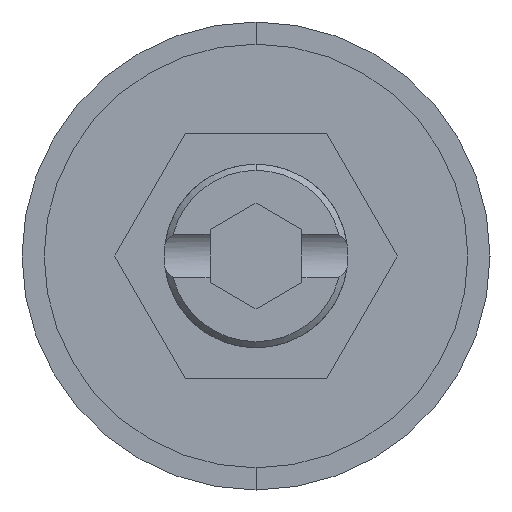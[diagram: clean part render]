
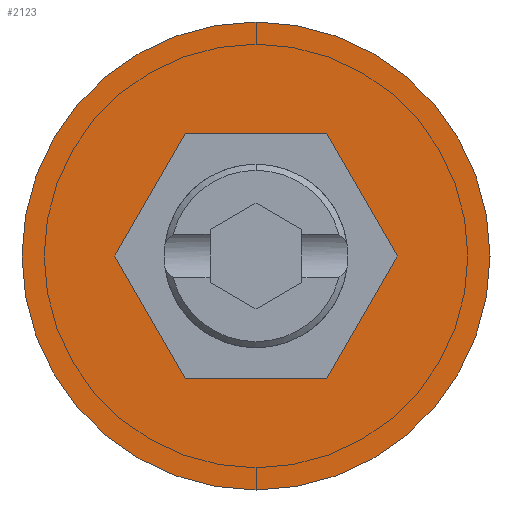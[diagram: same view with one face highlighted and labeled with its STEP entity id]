
A CAD part, front view. The second image highlights one B-rep face of the part: STEP entity #2123.
In plain terms, the highlighted planar face has unit normal (0, -1, 0).
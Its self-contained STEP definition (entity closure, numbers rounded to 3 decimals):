
#33 = ORIENTED_EDGE ( 'NONE', *, *, #2002, .T. ) ;
#62 = DIRECTION ( 'NONE',  ( 0., 0., -1. ) ) ;
#91 = VECTOR ( 'NONE', #1223, 1000. ) ;
#124 = EDGE_CURVE ( 'NONE', #137, #1408, #1117, .T. ) ;
#136 = CARTESIAN_POINT ( 'NONE',  ( 4.619, 0., 0. ) ) ;
#137 = VERTEX_POINT ( 'NONE', #3266 ) ;
#145 = DIRECTION ( 'NONE',  ( 0., -1., 0. ) ) ;
#203 = VERTEX_POINT ( 'NONE', #762 ) ;
#233 = EDGE_LOOP ( 'NONE', ( #1955, #33 ) ) ;
#241 = CARTESIAN_POINT ( 'NONE',  ( 0., 0., 0. ) ) ;
#264 = PLANE ( 'NONE',  #3974 ) ;
#391 = EDGE_CURVE ( 'NONE', #3546, #203, #3991, .T. ) ;
#451 = AXIS2_PLACEMENT_3D ( 'NONE', #3568, #1650, #3899 ) ;
#459 = ORIENTED_EDGE ( 'NONE', *, *, #3722, .F. ) ;
#473 = CIRCLE ( 'NONE', #2277, 7.65 ) ;
#477 = VERTEX_POINT ( 'NONE', #3572 ) ;
#559 = DIRECTION ( 'NONE',  ( -0.5, 0., 0.866 ) ) ;
#731 = EDGE_CURVE ( 'NONE', #3794, #3546, #2207, .T. ) ;
#762 = CARTESIAN_POINT ( 'NONE',  ( 2.309, 0., 4. ) ) ;
#803 = EDGE_CURVE ( 'NONE', #477, #137, #1891, .T. ) ;
#832 = CARTESIAN_POINT ( 'NONE',  ( 4.619, 0., 0. ) ) ;
#890 = ORIENTED_EDGE ( 'NONE', *, *, #391, .F. ) ;
#1010 = VERTEX_POINT ( 'NONE', #2544 ) ;
#1063 = VECTOR ( 'NONE', #1401, 1000. ) ;
#1117 = LINE ( 'NONE', #1994, #1063 ) ;
#1223 = DIRECTION ( 'NONE',  ( -1., 0., 0. ) ) ;
#1302 = VERTEX_POINT ( 'NONE', #2802 ) ;
#1401 = DIRECTION ( 'NONE',  ( 0.5, 0., -0.866 ) ) ;
#1408 = VERTEX_POINT ( 'NONE', #2950 ) ;
#1538 = ORIENTED_EDGE ( 'NONE', *, *, #731, .F. ) ;
#1575 = VECTOR ( 'NONE', #2885, 1000. ) ;
#1583 = ORIENTED_EDGE ( 'NONE', *, *, #124, .F. ) ;
#1634 = EDGE_CURVE ( 'NONE', #1408, #3794, #2005, .T. ) ;
#1650 = DIRECTION ( 'NONE',  ( 0., -1., 0. ) ) ;
#1691 = CARTESIAN_POINT ( 'NONE',  ( 0., 0., 0. ) ) ;
#1713 = DIRECTION ( 'NONE',  ( 0., -1., 0. ) ) ;
#1729 = DIRECTION ( 'NONE',  ( 0., 0., -1. ) ) ;
#1771 = ORIENTED_EDGE ( 'NONE', *, *, #1634, .F. ) ;
#1843 = VECTOR ( 'NONE', #2495, 1000. ) ;
#1891 = LINE ( 'NONE', #2862, #1575 ) ;
#1911 = CARTESIAN_POINT ( 'NONE',  ( 2.309, 0., -4. ) ) ;
#1950 = LINE ( 'NONE', #3181, #91 ) ;
#1953 = EDGE_LOOP ( 'NONE', ( #1771, #1583, #2925, #459, #890, #1538 ) ) ;
#1955 = ORIENTED_EDGE ( 'NONE', *, *, #3238, .T. ) ;
#1994 = CARTESIAN_POINT ( 'NONE',  ( -4.619, 0., 0. ) ) ;
#2002 = EDGE_CURVE ( 'NONE', #1302, #1010, #473, .T. ) ;
#2005 = LINE ( 'NONE', #3315, #1843 ) ;
#2052 = VECTOR ( 'NONE', #3414, 1000. ) ;
#2123 = ADVANCED_FACE ( 'NONE', ( #2821, #4087 ), #264, .T. ) ;
#2207 = LINE ( 'NONE', #3147, #2052 ) ;
#2277 = AXIS2_PLACEMENT_3D ( 'NONE', #1691, #1713, #1729 ) ;
#2495 = DIRECTION ( 'NONE',  ( 1., 0., 0. ) ) ;
#2544 = CARTESIAN_POINT ( 'NONE',  ( 0., 0., -7.65 ) ) ;
#2802 = CARTESIAN_POINT ( 'NONE',  ( 0., 0., 7.65 ) ) ;
#2821 = FACE_BOUND ( 'NONE', #1953, .T. ) ;
#2862 = CARTESIAN_POINT ( 'NONE',  ( -2.309, 0., 4. ) ) ;
#2885 = DIRECTION ( 'NONE',  ( -0.5, 0., -0.866 ) ) ;
#2925 = ORIENTED_EDGE ( 'NONE', *, *, #803, .F. ) ;
#2950 = CARTESIAN_POINT ( 'NONE',  ( -2.309, 0., -4. ) ) ;
#3147 = CARTESIAN_POINT ( 'NONE',  ( 2.309, 0., -4. ) ) ;
#3181 = CARTESIAN_POINT ( 'NONE',  ( 2.309, 0., 4. ) ) ;
#3238 = EDGE_CURVE ( 'NONE', #1010, #1302, #3645, .T. ) ;
#3266 = CARTESIAN_POINT ( 'NONE',  ( -4.619, 0., 0. ) ) ;
#3315 = CARTESIAN_POINT ( 'NONE',  ( -2.309, 0., -4. ) ) ;
#3414 = DIRECTION ( 'NONE',  ( 0.5, 0., 0.866 ) ) ;
#3546 = VERTEX_POINT ( 'NONE', #136 ) ;
#3568 = CARTESIAN_POINT ( 'NONE',  ( 0., 0., 0. ) ) ;
#3572 = CARTESIAN_POINT ( 'NONE',  ( -2.309, 0., 4. ) ) ;
#3645 = CIRCLE ( 'NONE', #451, 7.65 ) ;
#3722 = EDGE_CURVE ( 'NONE', #203, #477, #1950, .T. ) ;
#3794 = VERTEX_POINT ( 'NONE', #1911 ) ;
#3899 = DIRECTION ( 'NONE',  ( 0., 0., -1. ) ) ;
#3944 = VECTOR ( 'NONE', #559, 1000. ) ;
#3974 = AXIS2_PLACEMENT_3D ( 'NONE', #241, #145, #62 ) ;
#3991 = LINE ( 'NONE', #832, #3944 ) ;
#4087 = FACE_OUTER_BOUND ( 'NONE', #233, .T. ) ;
